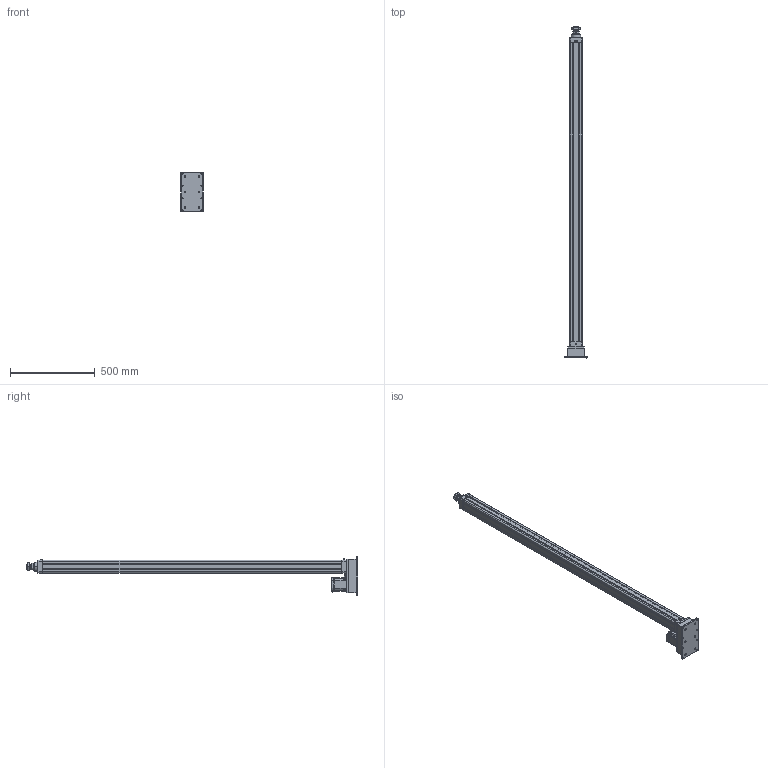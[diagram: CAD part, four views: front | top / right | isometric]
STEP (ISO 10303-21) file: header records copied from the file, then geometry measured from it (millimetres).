
FILE_DESCRIPTION((''),'2;1');
FILE_NAME('HE63-D-100-X1_ASM','2020-04-29T',('ASUS20200'),(''),'CREO PARAMETRIC BY PTC INC, 2014190','CREO PARAMETRIC BY PTC INC, 2014190','');
FILE_SCHEMA(('CONFIG_CONTROL_DESIGN'));
Length unit declared in the file: millimetre
Products named in the file (23): HE63-D-P-001-X1; HE63-D-P-002-X1; HE63-D-P-003-X1; LGLM-M8-22; SLM-01; YZ-M6X1; JDB405030; HE63-P-010-X1-80N; _MHMF082L1A2; MHMF082L1A2M2_1_ASM; JX6X6X25; HE63-P-012-X1; HE63-P-013-X1; M6X60; JM-M8; LM-M8-15; LM-M8X1-25; HE63-D-P-005-X1; HE63-D-P-004-X1; HE63-D-P-008-X1; TD-6; M6X25; HE63-D-100-X1_ASM
Assembly tree (40 placements, depth 3):
  HE63-D-100-X1_ASM
    HE63-D-P-001-X1
    HE63-D-P-002-X1
    HE63-D-P-003-X1
    LGLM-M8-22  x8
    SLM-01
    YZ-M6X1
    JDB405030
    HE63-P-010-X1-80N
    MHMF082L1A2M2_1_ASM
      _MHMF082L1A2
    JX6X6X25
    HE63-P-012-X1
    HE63-P-013-X1
    M6X60  x6
    JM-M8
    LM-M8-15
    LM-M8X1-25
    HE63-D-P-005-X1
    HE63-D-P-004-X1
    HE63-D-P-008-X1
    TD-6  x4
    M6X25  x4
Bounding box: 130 x 1957 x 230 mm (x, y, z)
Volume: 5204654.7 mm3; surface area: 1598839.6 mm2
Topology: 39 solids, 69 shells, 2066 faces, 4931 edges, 3038 vertices
Faces by surface type: plane 775, cylinder 605, cone 551, torus 102, sphere 30, bspline 3
Entity records: 48664 total; most frequent: CARTESIAN_POINT 9318, DIRECTION 8747, ORIENTED_EDGE 7614, EDGE_CURVE 3857, AXIS2_PLACEMENT_3D 3375, VERTEX_POINT 2385, VECTOR 1997, LINE 1997
